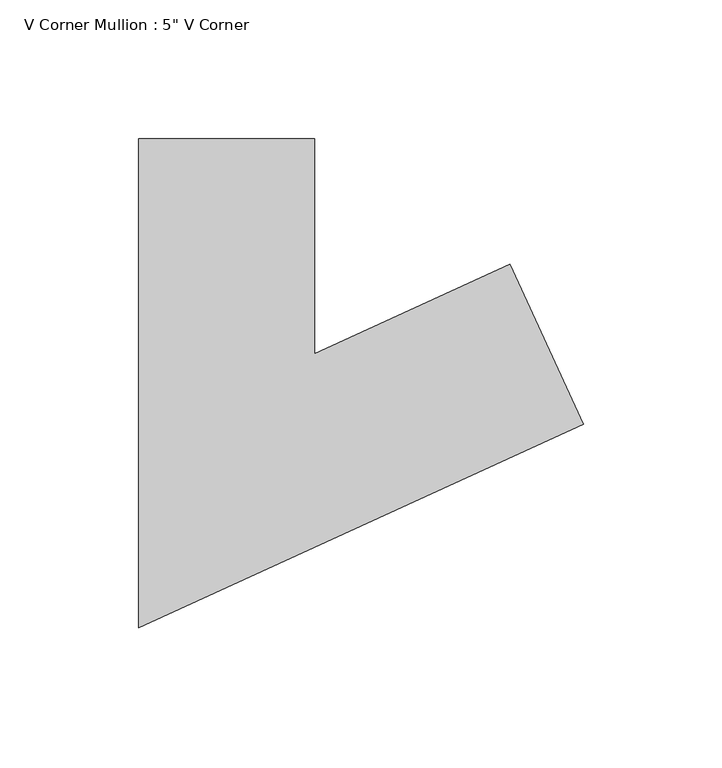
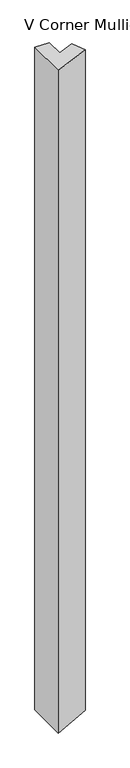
"""IFC4 building model written with IfcOpenShell, lengths in millimetres: member geometry."""

from ifc_helpers import new_model, si_unit, origin, place, context, project, spatial, faceted_brep, source, transform, mapped, element, save


def member_3b3d754f(model_context):
    return source(origin(), model_context, "Body", "Brep", [
        faceted_brep([(61.49523, 18.2208415, -2.218076), (87.9205542, -39.5195451, -3.1712129), (87.9205542, -39.5195451, -3050.8359693), (61.49523, 18.2208415, -3051.6249524), (-9.0228811, -14.0523047, 0.325447), (-9.0228811, -14.0523047, -3053.7304177), (-9.0228811, 63.5, 0.325447), (-9.0228811, 63.5, -3053.7304177), (-72.5228811, 63.5, 2.6158331), (-72.5228811, 63.5, -3055.6263426), (-72.5228811, -112.9476953, 2.6158331), (-72.5228811, -112.9476953, -3055.6263426)], [[[0, 1, 2, 3]], [[4, 0, 3, 5]], [[6, 4, 5, 7]], [[8, 6, 7, 9]], [[10, 8, 9, 11]], [[1, 10, 11, 2]], [[1, 0, 4, 6, 8, 10]], [[2, 11, 9, 7, 5, 3]]]),
    ])


if __name__ == "__main__":
    model = new_model("IFC4")
    model_context = context("Model", 3, world=origin())
    ifc_project = project(units=[si_unit("LENGTHUNIT", "METRE", prefix="MILLI")], contexts=[model_context])
    site = spatial("IfcSite", under=ifc_project)
    building = spatial("IfcBuilding", under=site)
    placement = place(None, origin())
    member_shape = member_3b3d754f(model_context)
    element("IfcMember", 1, ObjectType="V Corner Mullion : 5\" V Corner", at=placement, inside=building, context=model_context, shape_type="MappedRepresentation", body=[
        mapped(member_shape, transform((0.0, 0.0, 0.0), x_axis=(1.0, 0.0, 0.0), y_axis=(0.0, 1.0, 0.0), z_axis=(0.0, 0.0, 1.0))),
    ])
    save(model, "model.ifc")
